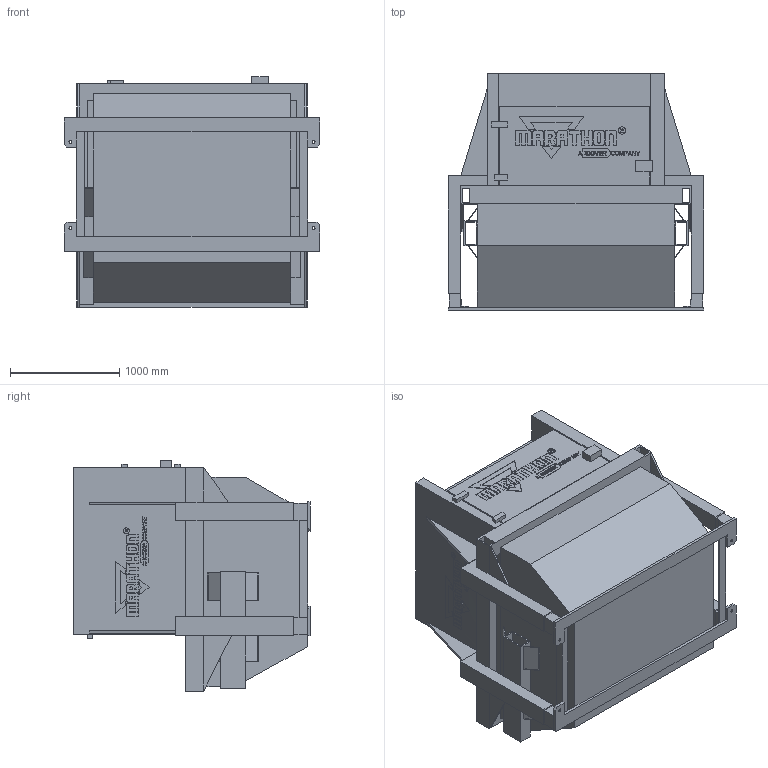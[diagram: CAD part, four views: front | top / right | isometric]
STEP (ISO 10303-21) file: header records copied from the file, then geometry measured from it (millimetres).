
FILE_DESCRIPTION((''),'2;1');
FILE_NAME('75209_ASM','2018-10-23T19:22:51',('10048000'),(''),'CREO PARAMETRIC BY PTC INC, 2017110','CREO PARAMETRIC BY PTC INC, 2017110','');
FILE_SCHEMA(('CONFIG_CONTROL_DESIGN'));
Products named in the file (3): STRUCTURE_75209; CONTAINER_75209; 75209_ASM
Assembly tree (2 placements, depth 2):
  75209_ASM
    STRUCTURE_75209
    CONTAINER_75209
Bounding box: 2339.97 x 2165.22 x 2106.61 mm (x, y, z)
Volume: 2939094139.7 mm3; surface area: 50117389.3 mm2
Topology: 2 solids, 2 shells, 2712 faces, 7492 edges, 4975 vertices
Faces by surface type: plane 2519, cylinder 193
Entity records: 85064 total; most frequent: CARTESIAN_POINT 15184, ORIENTED_EDGE 14984, DIRECTION 13312, EDGE_CURVE 7492, VECTOR 7106, LINE 7106, VERTEX_POINT 4975, AXIS2_PLACEMENT_3D 3103
